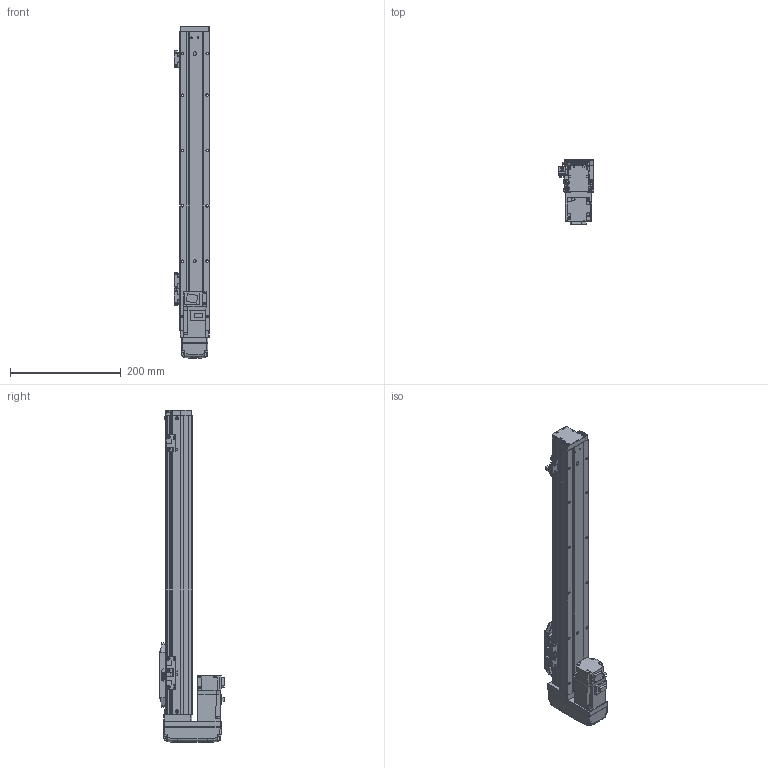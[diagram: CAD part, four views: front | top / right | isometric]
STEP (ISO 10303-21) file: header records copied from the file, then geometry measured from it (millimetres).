
FILE_DESCRIPTION (( 'STEP AP203' ), '1' );
FILE_NAME ('GTH5-400-BM-M10-C4.step', '2022-09-23T00:47:27', ( '微软用户' ), ( '微软中国' ), 'SwSTEP 2.0', 'SolidWorks 2020', '' );
FILE_SCHEMA (( 'CONFIG_CONTROL_DESIGN' ));
Length unit declared in the file: millimetre
Products named in the file (19): GBT 70.3-M3℅6; GBT 70.1-M3℅6; GTH50-027-1_BTHA50-027-2; BTH-M3X5X6; GBT96.1-2002 3×0.8; GTH50-026; GTH50-001_400; GTH50-024; GTH5-400-BM-M10-C4; GBT 70.1-M4×16; GBT 70.1-M2.5×6; GTH50-003; GTH50-028; GTH50-006; GTH50-013; GTH50-022-1; GTH50-004; GTH50-023; HG-KR13
Assembly tree (57 placements, depth 2):
  GTH5-400-BM-M10-C4
    GTH50-006
    GTH50-004
    GBT 70.3-M3℅6  x4
    BTH-M3X5X6  x8
    GTH50-001_400
    GBT 70.1-M4×16  x8
    GTH50-003
    GTH50-013
    GTH50-023  x3
    GBT 70.1-M3℅6  x12
    GBT96.1-2002 3×0.8  x6
    GTH50-024  x3
    GBT 70.1-M2.5×6  x2
    GTH50-028  x2
    GTH50-022-1
    HG-KR13
    GTH50-027-1_BTHA50-027-2
    GTH50-026
Bounding box: 63.8 x 118.9 x 600 mm (x, y, z)
Volume: 1408116.4 mm3; surface area: 256006.5 mm2
Topology: 59 solids, 59 shells, 2152 faces, 4992 edges, 3060 vertices
Faces by surface type: plane 1142, cylinder 581, cone 219, torus 162, bspline 40, sphere 8
Entity records: 39864 total; most frequent: CARTESIAN_POINT 7899, DIRECTION 6129, ORIENTED_EDGE 5898, EDGE_CURVE 2949, AXIS2_PLACEMENT_3D 2128, VECTOR 1873, LINE 1873, VERTEX_POINT 1862
